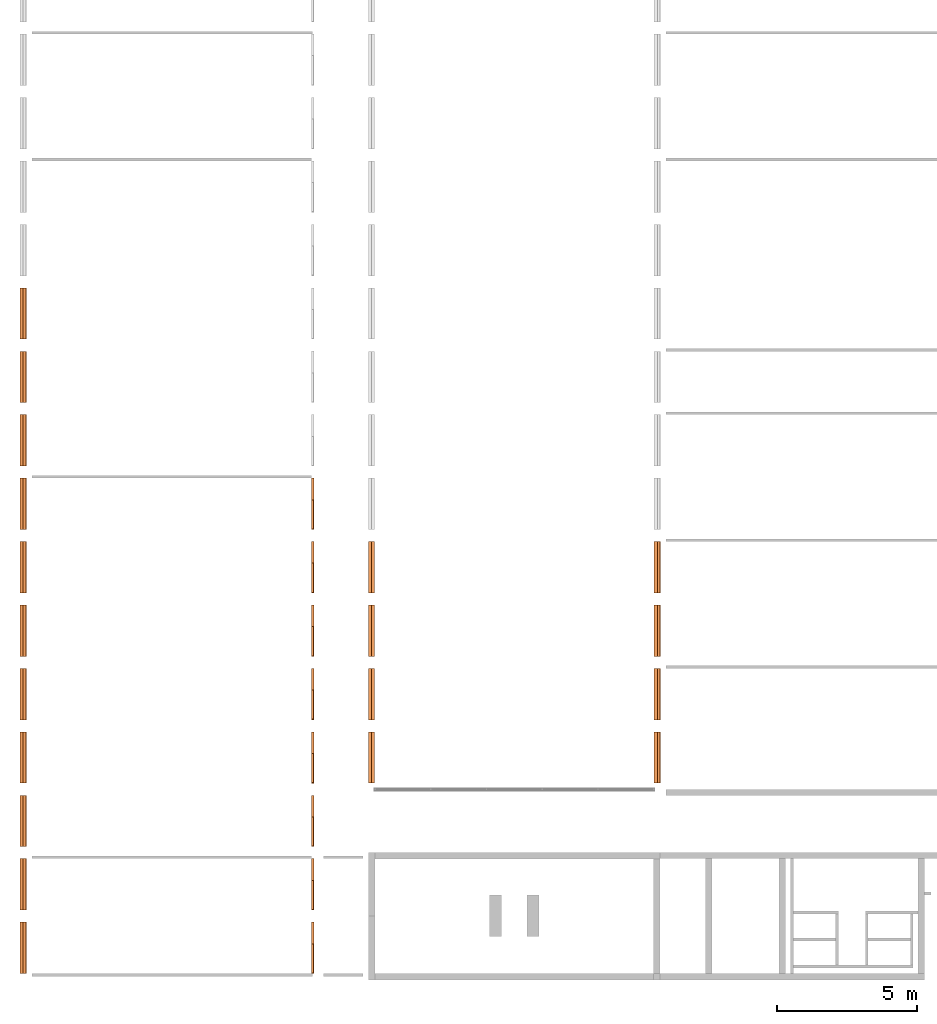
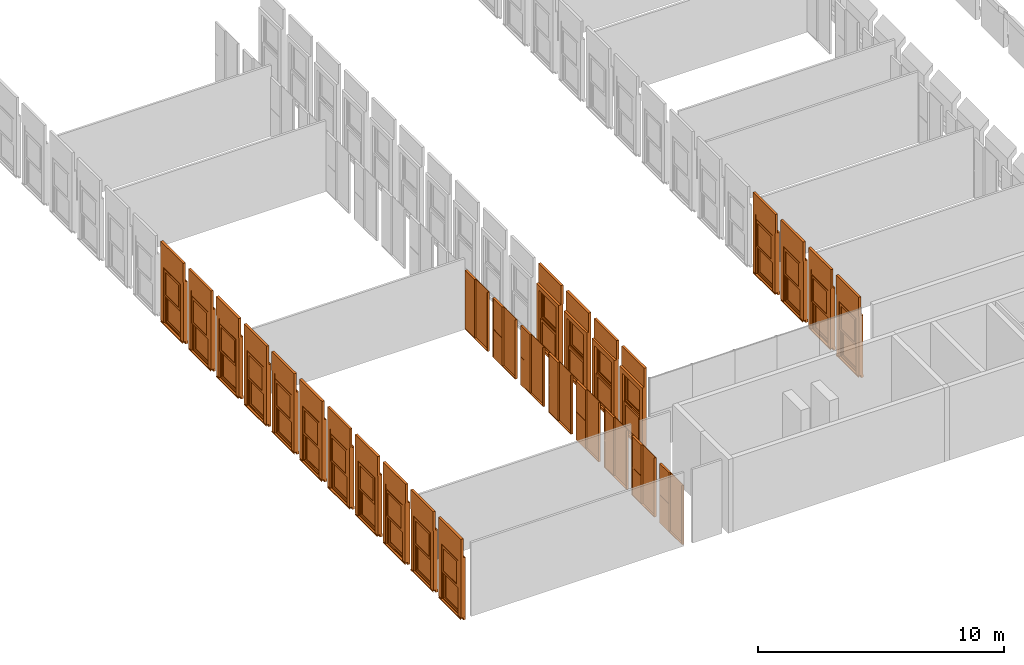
# One storey, part 6 of 13: 27 proxies.
"""IFC2X3 building model written with IfcOpenShell, lengths in millimetres."""

from ifc_helpers import new_model, entity, si_unit, converted_unit, derived_unit, direction, frame, frame_2d, origin, origin_2d_with_axis, place, context, subcontext, project, spatial, polyline, rectangle, outline, extrude, source, transform, mapped, material, material_list, type_object, type_shapes, element, save


model = new_model("IFC2X3")

# Units and contexts
model_context = context("Model", 3, precision=0.01, world=origin(), true_north=direction((6.12303176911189e-17, 1.0)))
body_context = subcontext(model_context, "Body", "Model", "MODEL_VIEW")
ifc_project = project(units=[si_unit("LENGTHUNIT", "METRE", prefix="MILLI"), si_unit("AREAUNIT", "SQUARE_METRE"), si_unit("VOLUMEUNIT", "CUBIC_METRE"), converted_unit("PLANEANGLEUNIT", "DEGREE", entity("IfcRatioMeasure", 0.0174532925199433), si_unit("PLANEANGLEUNIT", "RADIAN"), dimensions=[0, 0, 0, 0, 0, 0, 0]), si_unit("MASSUNIT", "GRAM", prefix="KILO"), derived_unit("MASSDENSITYUNIT", [(si_unit("MASSUNIT", "GRAM", prefix="KILO"), 1), (si_unit("LENGTHUNIT", "METRE"), -3)]), derived_unit("MOMENTOFINERTIAUNIT", [(si_unit("LENGTHUNIT", "METRE"), 4)]), si_unit("TIMEUNIT", "SECOND"), si_unit("FREQUENCYUNIT", "HERTZ"), si_unit("THERMODYNAMICTEMPERATUREUNIT", "DEGREE_CELSIUS"), derived_unit("THERMALTRANSMITTANCEUNIT", [(si_unit("MASSUNIT", "GRAM", prefix="KILO"), 1), (si_unit("THERMODYNAMICTEMPERATUREUNIT", "KELVIN"), -1), (si_unit("TIMEUNIT", "SECOND"), -3)]), derived_unit("VOLUMETRICFLOWRATEUNIT", [(si_unit("LENGTHUNIT", "METRE"), 3), (si_unit("TIMEUNIT", "SECOND"), -1)]), si_unit("ELECTRICCURRENTUNIT", "AMPERE"), si_unit("ELECTRICVOLTAGEUNIT", "VOLT"), si_unit("POWERUNIT", "WATT"), si_unit("FORCEUNIT", "NEWTON", prefix="KILO"), si_unit("ILLUMINANCEUNIT", "LUX"), si_unit("LUMINOUSFLUXUNIT", "LUMEN"), si_unit("LUMINOUSINTENSITYUNIT", "CANDELA"), derived_unit("USERDEFINED", [(si_unit("MASSUNIT", "GRAM", prefix="KILO"), -1), (si_unit("LENGTHUNIT", "METRE"), -2), (si_unit("TIMEUNIT", "SECOND"), 3), (si_unit("LUMINOUSFLUXUNIT", "LUMEN"), 1)]), derived_unit("LINEARVELOCITYUNIT", [(si_unit("LENGTHUNIT", "METRE"), 1), (si_unit("TIMEUNIT", "SECOND"), -1)]), si_unit("PRESSUREUNIT", "PASCAL"), derived_unit("USERDEFINED", [(si_unit("LENGTHUNIT", "METRE"), -2), (si_unit("MASSUNIT", "GRAM", prefix="KILO"), 1), (si_unit("TIMEUNIT", "SECOND"), -2)]), derived_unit("LINEARFORCEUNIT", [(si_unit("MASSUNIT", "GRAM", prefix="KILO"), 1), (si_unit("LENGTHUNIT", "METRE"), 1), (si_unit("TIMEUNIT", "SECOND"), -2), (si_unit("LENGTHUNIT", "METRE"), -1)]), derived_unit("PLANARFORCEUNIT", [(si_unit("MASSUNIT", "GRAM", prefix="KILO"), 1), (si_unit("LENGTHUNIT", "METRE"), 1), (si_unit("TIMEUNIT", "SECOND"), -2), (si_unit("LENGTHUNIT", "METRE"), -2)])], contexts=[model_context])

# Site, building, storey
site_placement = place(None, frame((10627.5135316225, 21939.0796949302, 0.0)))
site = spatial("IfcSite", under=ifc_project, at=site_placement, Name="Default", CompositionType="ELEMENT")
building_placement = place(site_placement, origin())
building = spatial("IfcBuilding", under=site, at=building_placement, CompositionType="ELEMENT")
storey_placement = place(building_placement, frame((0.0, 0.0, 7320.0)))
storey = spatial("IfcBuildingStorey", under=building, at=storey_placement, Name="R+2", CompositionType="ELEMENT", Elevation=7320.0)

# Proxies
ifc_material_1 = material(Name="PVC, Flexible")
ifc_material_2 = material(Name="Glass")
ifc_material_list_1 = material_list([ifc_material_1, ifc_material_2])
building_element_proxy_type_1 = type_object("IfcBuildingElementProxyType", Name="FENETRE.dwg:Fenetre ext 296+95", PredefinedType="NOTDEFINED", material=ifc_material_1)
shared_shape_1 = source(origin(), body_context, "Body", "SweptSolid", [
    extrude(rectangle(XDim=1829.99999999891, YDim=112.500043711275, at=origin_2d_with_axis()), frame((-10.4189092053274, 56.2500218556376, 2960.0), z_axis=(0.0, 0.0, 1.0), x_axis=(-1.0, 0.0, 0.0)), (0.0, 0.0, 1.0), 949.999999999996),
    extrude(outline(polyline([(-68.5678005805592, -14.3879872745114), (-72.4883397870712, -33.9999574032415), (-67.5853472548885, -34.9800922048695), (-63.9024543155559, -16.5569155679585), (44.3087537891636, -16.5569155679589), (54.1101018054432, 32.4730097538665), (40.6268723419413, 35.1683804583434), (40.1368049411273, 32.7168841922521), (51.168538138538, 30.5115808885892), (42.1928709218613, -14.3879872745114), (-68.5678005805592, -14.3879872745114)])), frame((-925.418909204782, 66.917049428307, -47.5499763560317), z_axis=(-1.0, 0.0, 0.0), x_axis=(0.0, 0.980598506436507, -0.196026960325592)), (0.0, 0.0, -1.0), 1829.99999999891),
    extrude(outline(polyline([(-64.667066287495, -56.2500218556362), (66.1666874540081, -56.2500218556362), (66.1666874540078, 56.2500218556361), (-67.6663086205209, 56.2500218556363), (-64.667066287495, -56.2500218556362)])), frame((-925.418909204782, -56.2500218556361, -63.833312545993), z_axis=(1.0, 0.0, 0.0), x_axis=(0.0, 0.0, -1.0)), (0.0, 0.0, 1.0), 1829.99999999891),
    extrude(outline(polyline([(-55.5555555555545, 97.0007159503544), (-55.5555555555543, -5.85738417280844), (-55.5555555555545, -95.357341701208), (-45.5555555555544, -95.3573417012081), (-45.5555555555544, -105.357341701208), (174.444444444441, -105.357341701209), (174.444444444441, 106.642659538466), (-45.5555555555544, 106.642659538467), (-45.5555555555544, 97.0007159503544), (-55.5555555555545, 97.0007159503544)])), frame((849.025535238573, 5.85738417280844, 0.0), z_axis=(0.0, 0.0, -1.0), x_axis=(-1.0, 0.0, 0.0)), (0.0, 0.0, -1.0), 2960.0),
    extrude(rectangle(XDim=199.499957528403, YDim=1369.99999999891, at=origin_2d_with_axis()), frame((-10.4189092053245, 0.250021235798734, 2730.0), z_axis=(0.0, 0.0, 1.0), x_axis=(0.0, 1.0, 0.0)), (0.0, 0.0, 1.0), 230.000000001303),
    extrude(outline(polyline([(-97.0007159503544, -55.5555555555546), (5.85738417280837, -55.5555555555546), (95.357341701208, -55.5555555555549), (95.357341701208, -45.5555555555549), (105.357341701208, -45.5555555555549), (105.357341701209, 174.44444444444), (-106.642659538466, 174.444444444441), (-106.642659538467, -45.5555555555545), (-97.0007159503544, -45.5555555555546), (-97.0007159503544, -55.5555555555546)])), frame((-869.863353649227, 5.85738417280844, 0.0), z_axis=(0.0, 0.0, 1.0), x_axis=(0.0, -1.0, 0.0)), (0.0, 0.0, 1.0), 2960.0),
    extrude(rectangle(XDim=1.0, YDim=1079.99999999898, at=origin_2d_with_axis()), frame((-10.4189092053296, -19.5, 130.0), z_axis=(0.0, 0.0, 1.0), x_axis=(0.0, 1.0, 0.0)), (0.0, 0.0, 1.0), 1120.00000000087),
    extrude(rectangle(XDim=1.0, YDim=1079.99999999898, at=frame_2d((-4.21884749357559e-15, 0.0), x_axis=(1.0, 0.0))), frame((-10.4189092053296, -30.5, 130.0), z_axis=(0.0, 0.0, 1.0), x_axis=(0.0, 1.0, 0.0)), (0.0, 0.0, 1.0), 1120.00000000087),
    extrude(rectangle(XDim=1.0, YDim=1079.99999999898, at=frame_2d((-4.21884749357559e-15, 0.0), x_axis=(1.0, 0.0))), frame((-10.4189092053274, 69.5, 1465.0), z_axis=(0.0, 0.0, 1.0), x_axis=(0.0, 1.0, 0.0)), (0.0, 0.0, 1.0), 1120.0),
    extrude(rectangle(XDim=0.999999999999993, YDim=1079.99999999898, at=frame_2d((-8.46545056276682e-15, 0.0), x_axis=(1.0, 0.0))), frame((-10.4189092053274, 80.5, 1465.0), z_axis=(0.0, 0.0, 1.0), x_axis=(0.0, 1.0, 0.0)), (0.0, 0.0, 1.0), 1120.00000000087),
    extrude(outline(polyline([(-685.0, -1365.0), (0.0, -1365.0), (685.0, -1365.0), (685.0, 1365.0), (0.0, 1365.0), (-685.0, 1365.0), (-685.0, -1365.0)]), holes=[polyline([(-640.0, -1320.0), (-640.0, -45.0), (0.0, -45.0), (640.0, -45.0), (640.0, -1320.0), (0.0, -1320.0), (-640.0, -1320.0)]), polyline([(-640.0, 40.0), (-640.0, 1315.0), (0.0, 1315.0), (640.0, 1315.0), (640.0, 40.0), (0.0, 40.0), (-640.0, 40.0)])]), frame((-10.4189092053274, 0.0, 1365.0), z_axis=(0.0, 1.0, 0.0), x_axis=(1.0, 0.0, 0.0)), (0.0, 0.0, 1.0), 50.0),
    extrude(outline(polyline([(-655.0, -667.500000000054), (655.0, -667.500000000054), (655.0, 667.500000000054), (-655.0, 667.500000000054), (-655.0, -667.500000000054)]), holes=[polyline([(-540.0, 552.500000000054), (540.0, 552.500000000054), (540.0, -567.500000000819), (-540.0, -567.500000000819), (-540.0, 552.500000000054)])]), frame((-10.4189092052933, -50.0, 697.500000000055), z_axis=(0.0, 1.0, 0.0), x_axis=(-1.0, 0.0, 0.0)), (0.0, 0.0, 1.0), 50.0),
    extrude(outline(polyline([(-655.0, -667.500000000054), (655.0, -667.500000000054), (655.0, 667.500000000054), (-655.0, 667.500000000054), (-655.0, -667.500000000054)]), holes=[polyline([(-540.0, 552.500000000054), (540.0, 552.500000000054), (540.0, -567.500000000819), (-540.0, -567.500000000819), (-540.0, 552.500000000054)])]), frame((-10.4189092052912, 50.0, 2032.50000000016), z_axis=(0.0, 1.0, 0.0), x_axis=(-1.0, 0.0, 0.0)), (0.0, 0.0, 1.0), 50.0),
])
type_shapes(building_element_proxy_type_1, [shared_shape_1])
proxy_1_placement = place(storey_placement, frame((-10728.9017825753, 1801.33921427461, 0.0), z_axis=(0.0, 0.0, 1.0), x_axis=(0.0, 1.0, 0.0)))
element("IfcBuildingElementProxy", 1, at=proxy_1_placement, inside=storey, type_object=building_element_proxy_type_1, material=ifc_material_list_1, Name="FENETRE.dwg:Fenetre ext 296+95", ObjectType="FENETRE.dwg:Fenetre ext 296+95", context=body_context, shape_type="MappedRepresentation", body=[
    mapped(shared_shape_1, transform((0.0, 0.0, 0.0), scale=1.0)),
])
ifc_material_list_2 = material_list([ifc_material_1, ifc_material_2])
proxy_2_placement = place(storey_placement, frame((-10728.9017825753, -458.660785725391, 0.0), z_axis=(0.0, 0.0, 1.0), x_axis=(0.0, 1.0, 0.0)))
element("IfcBuildingElementProxy", 2, at=proxy_2_placement, inside=storey, type_object=building_element_proxy_type_1, material=ifc_material_list_2, Name="FENETRE.dwg:Fenetre ext 296+95", ObjectType="FENETRE.dwg:Fenetre ext 296+95", context=body_context, shape_type="MappedRepresentation", body=[
    mapped(shared_shape_1, transform((0.0, 0.0, 0.0), scale=1.0)),
])
ifc_material_list_3 = material_list([ifc_material_1, ifc_material_2])
proxy_3_placement = place(storey_placement, frame((-10728.9017825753, -2718.66078572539, 0.0), z_axis=(0.0, 0.0, 1.0), x_axis=(0.0, 1.0, 0.0)))
element("IfcBuildingElementProxy", 3, at=proxy_3_placement, inside=storey, type_object=building_element_proxy_type_1, material=ifc_material_list_3, Name="FENETRE.dwg:Fenetre ext 296+95", ObjectType="FENETRE.dwg:Fenetre ext 296+95", context=body_context, shape_type="MappedRepresentation", body=[
    mapped(shared_shape_1, transform((0.0, 0.0, 0.0), scale=1.0)),
])
ifc_material_list_4 = material_list([ifc_material_1, ifc_material_2])
proxy_4_placement = place(storey_placement, frame((-10728.9017825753, -4978.66078572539, 0.0), z_axis=(0.0, 0.0, 1.0), x_axis=(0.0, 1.0, 0.0)))
element("IfcBuildingElementProxy", 4, at=proxy_4_placement, inside=storey, type_object=building_element_proxy_type_1, material=ifc_material_list_4, Name="FENETRE.dwg:Fenetre ext 296+95", ObjectType="FENETRE.dwg:Fenetre ext 296+95", context=body_context, shape_type="MappedRepresentation", body=[
    mapped(shared_shape_1, transform((0.0, 0.0, 0.0), scale=1.0)),
])
ifc_material_list_5 = material_list([ifc_material_1, ifc_material_2])
proxy_5_placement = place(storey_placement, frame((-10728.9017825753, -7238.6607857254, 0.0), z_axis=(0.0, 0.0, 1.0), x_axis=(0.0, 1.0, 0.0)))
element("IfcBuildingElementProxy", 5, at=proxy_5_placement, inside=storey, type_object=building_element_proxy_type_1, material=ifc_material_list_5, Name="FENETRE.dwg:Fenetre ext 296+95", ObjectType="FENETRE.dwg:Fenetre ext 296+95", context=body_context, shape_type="MappedRepresentation", body=[
    mapped(shared_shape_1, transform((0.0, 0.0, 0.0), scale=1.0)),
])
ifc_material_list_6 = material_list([ifc_material_1, ifc_material_2])
proxy_6_placement = place(storey_placement, frame((-10728.9017825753, -9498.6607857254, 0.0), z_axis=(0.0, 0.0, 1.0), x_axis=(0.0, 1.0, 0.0)))
element("IfcBuildingElementProxy", 6, at=proxy_6_placement, inside=storey, type_object=building_element_proxy_type_1, material=ifc_material_list_6, Name="FENETRE.dwg:Fenetre ext 296+95", ObjectType="FENETRE.dwg:Fenetre ext 296+95", context=body_context, shape_type="MappedRepresentation", body=[
    mapped(shared_shape_1, transform((0.0, 0.0, 0.0), scale=1.0)),
])
ifc_material_list_7 = material_list([ifc_material_1, ifc_material_2])
proxy_7_placement = place(storey_placement, frame((-10728.9017825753, -11758.6607857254, 0.0), z_axis=(0.0, 0.0, 1.0), x_axis=(0.0, 1.0, 0.0)))
element("IfcBuildingElementProxy", 7, at=proxy_7_placement, inside=storey, type_object=building_element_proxy_type_1, material=ifc_material_list_7, Name="FENETRE.dwg:Fenetre ext 296+95", ObjectType="FENETRE.dwg:Fenetre ext 296+95", context=body_context, shape_type="MappedRepresentation", body=[
    mapped(shared_shape_1, transform((0.0, 0.0, 0.0), scale=1.0)),
])
ifc_material_list_8 = material_list([ifc_material_1, ifc_material_2])
proxy_8_placement = place(storey_placement, frame((-10728.9017825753, -14018.6607857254, 0.0), z_axis=(0.0, 0.0, 1.0), x_axis=(0.0, 1.0, 0.0)))
element("IfcBuildingElementProxy", 8, at=proxy_8_placement, inside=storey, type_object=building_element_proxy_type_1, material=ifc_material_list_8, Name="FENETRE.dwg:Fenetre ext 296+95", ObjectType="FENETRE.dwg:Fenetre ext 296+95", context=body_context, shape_type="MappedRepresentation", body=[
    mapped(shared_shape_1, transform((0.0, 0.0, 0.0), scale=1.0)),
])
ifc_material_list_9 = material_list([ifc_material_1, ifc_material_2])
proxy_9_placement = place(storey_placement, frame((-10728.9017825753, -16278.6607857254, 0.0), z_axis=(0.0, 0.0, 1.0), x_axis=(0.0, 1.0, 0.0)))
element("IfcBuildingElementProxy", 9, at=proxy_9_placement, inside=storey, type_object=building_element_proxy_type_1, material=ifc_material_list_9, Name="FENETRE.dwg:Fenetre ext 296+95", ObjectType="FENETRE.dwg:Fenetre ext 296+95", context=body_context, shape_type="MappedRepresentation", body=[
    mapped(shared_shape_1, transform((0.0, 0.0, 0.0), scale=1.0)),
])
ifc_material_list_10 = material_list([ifc_material_1, ifc_material_2])
proxy_10_placement = place(storey_placement, frame((-10728.9017825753, -18538.6607857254, 0.0), z_axis=(0.0, 0.0, 1.0), x_axis=(0.0, 1.0, 0.0)))
element("IfcBuildingElementProxy", 10, at=proxy_10_placement, inside=storey, type_object=building_element_proxy_type_1, material=ifc_material_list_10, Name="FENETRE.dwg:Fenetre ext 296+95", ObjectType="FENETRE.dwg:Fenetre ext 296+95", context=body_context, shape_type="MappedRepresentation", body=[
    mapped(shared_shape_1, transform((0.0, 0.0, 0.0), scale=1.0)),
])
ifc_material_list_11 = material_list([ifc_material_1, ifc_material_2])
proxy_11_placement = place(storey_placement, frame((-10728.9017825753, -20798.6607857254, 0.0), z_axis=(0.0, 0.0, 1.0), x_axis=(0.0, 1.0, 0.0)))
element("IfcBuildingElementProxy", 11, at=proxy_11_placement, inside=storey, type_object=building_element_proxy_type_1, material=ifc_material_list_11, Name="FENETRE.dwg:Fenetre ext 296+95", ObjectType="FENETRE.dwg:Fenetre ext 296+95", context=body_context, shape_type="MappedRepresentation", body=[
    mapped(shared_shape_1, transform((0.0, 0.0, 0.0), scale=1.0)),
])
ifc_material_list_12 = material_list([ifc_material_1, ifc_material_2])
proxy_12_placement = place(storey_placement, frame((11863.0982174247, -7238.66078572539, 0.0), z_axis=(0.0, 0.0, 1.0), x_axis=(0.0, 1.0, 0.0)))
element("IfcBuildingElementProxy", 12, at=proxy_12_placement, inside=storey, type_object=building_element_proxy_type_1, material=ifc_material_list_12, Name="FENETRE.dwg:Fenetre ext 296+95", ObjectType="FENETRE.dwg:Fenetre ext 296+95", context=body_context, shape_type="MappedRepresentation", body=[
    mapped(shared_shape_1, transform((0.0, 0.0, 0.0), scale=1.0)),
])
ifc_material_list_13 = material_list([ifc_material_1, ifc_material_2])
proxy_13_placement = place(storey_placement, frame((11863.0982174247, -9498.66078572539, 0.0), z_axis=(0.0, 0.0, 1.0), x_axis=(0.0, 1.0, 0.0)))
element("IfcBuildingElementProxy", 13, at=proxy_13_placement, inside=storey, type_object=building_element_proxy_type_1, material=ifc_material_list_13, Name="FENETRE.dwg:Fenetre ext 296+95", ObjectType="FENETRE.dwg:Fenetre ext 296+95", context=body_context, shape_type="MappedRepresentation", body=[
    mapped(shared_shape_1, transform((0.0, 0.0, 0.0), scale=1.0)),
])
ifc_material_list_14 = material_list([ifc_material_1, ifc_material_2])
proxy_14_placement = place(storey_placement, frame((11863.0982174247, -11758.6607857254, 0.0), z_axis=(0.0, 0.0, 1.0), x_axis=(0.0, 1.0, 0.0)))
element("IfcBuildingElementProxy", 14, at=proxy_14_placement, inside=storey, type_object=building_element_proxy_type_1, material=ifc_material_list_14, Name="FENETRE.dwg:Fenetre ext 296+95", ObjectType="FENETRE.dwg:Fenetre ext 296+95", context=body_context, shape_type="MappedRepresentation", body=[
    mapped(shared_shape_1, transform((0.0, 0.0, 0.0), scale=1.0)),
])
ifc_material_list_15 = material_list([ifc_material_1, ifc_material_2])
proxy_15_placement = place(storey_placement, frame((11863.0982174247, -14018.6607857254, 0.0), z_axis=(0.0, 0.0, 1.0), x_axis=(0.0, 1.0, 0.0)))
element("IfcBuildingElementProxy", 15, at=proxy_15_placement, inside=storey, type_object=building_element_proxy_type_1, material=ifc_material_list_15, Name="FENETRE.dwg:Fenetre ext 296+95", ObjectType="FENETRE.dwg:Fenetre ext 296+95", context=body_context, shape_type="MappedRepresentation", body=[
    mapped(shared_shape_1, transform((0.0, 0.0, 0.0), scale=1.0)),
])
ifc_material_list_16 = material_list([ifc_material_1, ifc_material_2])
building_element_proxy_type_2 = type_object("IfcBuildingElementProxyType", Name="FENETRE.dwg:Fenetre ext 296+95", PredefinedType="NOTDEFINED", material=ifc_material_1)
shared_shape_2 = source(origin(), body_context, "Body", "SweptSolid", [
    extrude(rectangle(XDim=112.500043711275, YDim=1829.99999999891, at=origin_2d_with_axis()), frame((-10.4189092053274, -56.2500218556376, 2960.0), z_axis=(0.0, 0.0, 1.0), x_axis=(0.0, 1.0, 0.0)), (0.0, 0.0, 1.0), 949.999999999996),
    extrude(outline(polyline([(27.5499763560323, -64.4170494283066), (47.5499763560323, -64.4170494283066), (47.5499763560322, -59.4170494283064), (28.7622905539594, -59.4170494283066), (7.54997635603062, 46.6946996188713), (-42.4500236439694, 46.6946996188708), (-42.4500236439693, 32.9446996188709), (-39.9500236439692, 32.9446996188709), (-39.9500236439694, 44.1946996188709), (5.83789859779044, 44.1946996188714), (27.5499763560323, -64.4170494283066)])), frame((-925.418909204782, -66.917049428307, -47.5499763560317), z_axis=(1.0, 0.0, 0.0), x_axis=(0.0, 0.0, 1.0)), (0.0, 0.0, 1.0), 1829.99999999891),
    extrude(outline(polyline([(-54.506636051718, -66.1431859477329), (58.0333803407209, -66.1431859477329), (54.4666704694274, 67.6422744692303), (-57.9934147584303, 64.6440974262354), (-54.506636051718, -66.1431859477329)])), frame((-925.418909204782, 56.2500218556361, -63.833312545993), z_axis=(1.0, 0.0, 0.0), x_axis=(0.0, -0.999644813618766, 0.0266504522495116)), (0.0, 0.0, 1.0), 1829.99999999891),
    extrude(outline(polyline([(-97.0007159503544, -55.5555555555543), (5.85738417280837, -55.5555555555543), (95.357341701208, -55.5555555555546), (95.357341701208, -45.5555555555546), (105.357341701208, -45.5555555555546), (105.357341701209, 174.444444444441), (-106.642659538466, 174.444444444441), (-106.642659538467, -45.5555555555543), (-97.0007159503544, -45.5555555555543), (-97.0007159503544, -55.5555555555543)])), frame((849.025535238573, -5.85738417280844, 0.0), z_axis=(0.0, 0.0, 1.0), x_axis=(0.0, 1.0, 0.0)), (0.0, 0.0, 1.0), 2960.0),
    extrude(rectangle(XDim=1369.99999999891, YDim=199.499957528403, at=origin_2d_with_axis()), frame((-10.4189092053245, -0.250021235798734, 2730.0), z_axis=(0.0, 0.0, 1.0), x_axis=(-1.0, 0.0, 0.0)), (0.0, 0.0, 1.0), 230.000000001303),
    extrude(outline(polyline([(-55.5555555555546, 97.0007159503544), (-55.5555555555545, -5.85738417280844), (-55.5555555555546, -95.357341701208), (-45.5555555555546, -95.3573417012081), (-45.5555555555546, -105.357341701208), (174.444444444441, -105.357341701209), (174.444444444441, 106.642659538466), (-45.5555555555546, 106.642659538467), (-45.5555555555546, 97.0007159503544), (-55.5555555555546, 97.0007159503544)])), frame((-869.863353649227, -5.85738417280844, 0.0), z_axis=(0.0, 0.0, -1.0), x_axis=(1.0, 0.0, 0.0)), (0.0, 0.0, -1.0), 2960.0),
    extrude(rectangle(XDim=1079.99999999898, YDim=1.0, at=origin_2d_with_axis()), frame((-10.4189092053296, 19.5, 130.0), z_axis=(0.0, 0.0, 1.0), x_axis=(-1.0, 0.0, 0.0)), (0.0, 0.0, 1.0), 1120.00000000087),
    extrude(rectangle(XDim=1079.99999999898, YDim=1.0, at=origin_2d_with_axis()), frame((-10.4189092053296, 30.5, 130.0), z_axis=(0.0, 0.0, 1.0), x_axis=(-1.0, 0.0, 0.0)), (0.0, 0.0, 1.0), 1120.00000000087),
    extrude(rectangle(XDim=1079.99999999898, YDim=1.0, at=frame_2d((0.0, 4.21884749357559e-15), x_axis=(1.0, 0.0))), frame((-10.4189092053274, -69.5, 1465.0), z_axis=(0.0, 0.0, 1.0), x_axis=(-1.0, 0.0, 0.0)), (0.0, 0.0, 1.0), 1120.0),
    extrude(rectangle(XDim=1079.99999999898, YDim=0.999999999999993, at=frame_2d((0.0, -8.46545056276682e-15), x_axis=(1.0, 0.0))), frame((-10.4189092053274, -80.5, 1465.0), z_axis=(0.0, 0.0, 1.0), x_axis=(-1.0, 0.0, 0.0)), (0.0, 0.0, 1.0), 1120.00000000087),
    extrude(outline(polyline([(-685.0, -1365.0), (0.0, -1365.0), (685.0, -1365.0), (685.0, 1365.0), (0.0, 1365.0), (-685.0, 1365.0), (-685.0, -1365.0)]), holes=[polyline([(-640.0, -1320.0), (-640.0, -45.0), (0.0, -45.0), (640.0, -45.0), (640.0, -1320.0), (0.0, -1320.0), (-640.0, -1320.0)]), polyline([(-640.0, 40.0), (-640.0, 1315.0), (0.0, 1315.0), (640.0, 1315.0), (640.0, 40.0), (0.0, 40.0), (-640.0, 40.0)])]), frame((-10.4189092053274, -50.0, 1365.0), z_axis=(0.0, 1.0, 0.0), x_axis=(1.0, 0.0, 0.0)), (0.0, 0.0, 1.0), 50.0),
    extrude(outline(polyline([(-655.0, -667.500000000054), (655.0, -667.500000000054), (655.0, 667.500000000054), (-655.0, 667.500000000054), (-655.0, -667.500000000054)]), holes=[polyline([(-540.0, 552.500000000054), (540.0, 552.500000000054), (540.0, -567.500000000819), (-540.0, -567.500000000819), (-540.0, 552.500000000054)])]), frame((-10.4189092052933, 0.0, 697.500000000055), z_axis=(0.0, 1.0, 0.0), x_axis=(-1.0, 0.0, 0.0)), (0.0, 0.0, 1.0), 50.0),
    extrude(outline(polyline([(-655.0, -667.500000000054), (655.0, -667.500000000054), (655.0, 667.500000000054), (-655.0, 667.500000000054), (-655.0, -667.500000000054)]), holes=[polyline([(-540.0, 552.500000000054), (540.0, 552.500000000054), (540.0, -567.500000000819), (-540.0, -567.500000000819), (-540.0, 552.500000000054)])]), frame((-10.4189092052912, -100.0, 2032.50000000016), z_axis=(0.0, 1.0, 0.0), x_axis=(-1.0, 0.0, 0.0)), (0.0, 0.0, 1.0), 50.0),
])
type_shapes(building_element_proxy_type_2, [shared_shape_2])
proxy_16_placement = place(storey_placement, frame((1681.87471933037, -7238.66078572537, 0.0), z_axis=(0.0, 0.0, 1.0), x_axis=(0.0, 1.0, 0.0)))
element("IfcBuildingElementProxy", 16, at=proxy_16_placement, inside=storey, type_object=building_element_proxy_type_2, material=ifc_material_list_16, Name="FENETRE.dwg:Fenetre ext 296+95", ObjectType="FENETRE.dwg:Fenetre ext 296+95", context=body_context, shape_type="MappedRepresentation", body=[
    mapped(shared_shape_2, transform((0.0, 0.0, 0.0), scale=1.0)),
])
ifc_material_list_17 = material_list([ifc_material_1, ifc_material_2])
proxy_17_placement = place(storey_placement, frame((1681.87471933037, -9498.66078572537, 0.0), z_axis=(0.0, 0.0, 1.0), x_axis=(0.0, 1.0, 0.0)))
element("IfcBuildingElementProxy", 17, at=proxy_17_placement, inside=storey, type_object=building_element_proxy_type_2, material=ifc_material_list_17, Name="FENETRE.dwg:Fenetre ext 296+95", ObjectType="FENETRE.dwg:Fenetre ext 296+95", context=body_context, shape_type="MappedRepresentation", body=[
    mapped(shared_shape_2, transform((0.0, 0.0, 0.0), scale=1.0)),
])
ifc_material_list_18 = material_list([ifc_material_1, ifc_material_2])
proxy_18_placement = place(storey_placement, frame((1681.87471933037, -11758.6607857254, 0.0), z_axis=(0.0, 0.0, 1.0), x_axis=(0.0, 1.0, 0.0)))
element("IfcBuildingElementProxy", 18, at=proxy_18_placement, inside=storey, type_object=building_element_proxy_type_2, material=ifc_material_list_18, Name="FENETRE.dwg:Fenetre ext 296+95", ObjectType="FENETRE.dwg:Fenetre ext 296+95", context=body_context, shape_type="MappedRepresentation", body=[
    mapped(shared_shape_2, transform((0.0, 0.0, 0.0), scale=1.0)),
])
ifc_material_list_19 = material_list([ifc_material_1, ifc_material_2])
proxy_19_placement = place(storey_placement, frame((1681.87471933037, -14018.6607857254, 0.0), z_axis=(0.0, 0.0, 1.0), x_axis=(0.0, 1.0, 0.0)))
element("IfcBuildingElementProxy", 19, at=proxy_19_placement, inside=storey, type_object=building_element_proxy_type_2, material=ifc_material_list_19, Name="FENETRE.dwg:Fenetre ext 296+95", ObjectType="FENETRE.dwg:Fenetre ext 296+95", context=body_context, shape_type="MappedRepresentation", body=[
    mapped(shared_shape_2, transform((0.0, 0.0, 0.0), scale=1.0)),
])
ifc_material_3 = material(Name="Plywood, Sheathing")
ifc_material_list_20 = material_list([ifc_material_3, ifc_material_2])
building_element_proxy_type_3 = type_object("IfcBuildingElementProxyType", Name="Porte noire:Porte noire", PredefinedType="NOTDEFINED", material=ifc_material_3)
shared_shape_3 = source(origin(), body_context, "Body", "SweptSolid", [
    extrude(rectangle(XDim=100.0, YDim=23.0000000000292, at=origin_2d_with_axis()), frame((-950.918997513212, -50.0, 8.73189890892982), z_axis=(0.0, 0.0, 1.0), x_axis=(0.0, 1.0, 0.0)), (0.0, 0.0, 1.0), 2933.34951039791),
    extrude(rectangle(XDim=19.0, YDim=1038.0, at=frame_2d((7.99360577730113e-15, 0.0), x_axis=(1.0, 0.0))), frame((-420.418997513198, -87.5, 43.7318989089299), z_axis=(0.0, 0.0, 1.0), x_axis=(0.0, 1.0, 0.0)), (0.0, 0.0, 1.0), 2898.5),
    extrude(rectangle(XDim=100.0, YDim=1775.0, at=origin_2d_with_axis()), frame((-51.9189975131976, -50.0, 8.73189890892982), z_axis=(0.0, 0.0, 1.0), x_axis=(0.0, 1.0, 0.0)), (0.0, 0.0, 1.0), 35.0000000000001),
    extrude(rectangle(XDim=100.0, YDim=35.0000000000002, at=origin_2d_with_axis()), frame((853.081002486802, -50.0, 8.73189890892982), z_axis=(0.0, 0.0, 1.0), x_axis=(0.0, 1.0, 0.0)), (0.0, 0.0, 1.0), 2898.5),
    extrude(rectangle(XDim=100.0, YDim=740.0, at=origin_2d_with_axis()), frame((500.581002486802, -50.0, 2907.23189890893), z_axis=(0.0, 0.0, 1.0), x_axis=(0.0, 1.0, 0.0)), (0.0, 0.0, 1.0), 35.0000000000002),
    extrude(rectangle(XDim=100.0, YDim=31.9999999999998, at=origin_2d_with_axis()), frame((114.581002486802, -50.0, 43.7318989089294), z_axis=(0.0, 0.0, 1.0), x_axis=(0.0, 1.0, 0.0)), (0.0, 0.0, 1.0), 2898.5),
    extrude(rectangle(XDim=100.0, YDim=705.0, at=origin_2d_with_axis()), frame((483.081002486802, -50.0, 1343.73189890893), z_axis=(0.0, 0.0, 1.0), x_axis=(0.0, 1.0, 0.0)), (0.0, 0.0, 1.0), 55.0),
    extrude(outline(polyline([(-352.5, -650.0), (352.5, -650.0), (352.5, 650.0), (-352.5, 650.0), (-352.5, -650.0)]), holes=[polyline([(342.5, 640.0), (342.5, -640.0), (-342.5, -640.0), (-342.5, 640.0), (342.5, 640.0)])]), frame((483.081002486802, -80.0, 693.73189890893), z_axis=(0.0, 1.0, 0.0), x_axis=(1.0, 0.0, 0.0)), (0.0, 0.0, 1.0), 70.0),
    extrude(outline(polyline([(-754.25, -352.5), (754.25, -352.5), (754.25, 352.5), (-754.25, 352.5), (-754.25, -352.5)]), holes=[polyline([(744.25, 342.5), (744.25, -342.5), (-744.25, -342.5), (-744.25, 342.5), (744.25, 342.5)])]), frame((483.081002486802, -80.0, 2152.98189890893), z_axis=(0.0, 1.0, 0.0), x_axis=(0.0, 0.0, 1.0)), (0.0, 0.0, 1.0), 70.0),
    extrude(outline(polyline([(-640.0, -342.5), (640.0, -342.5), (640.0, 342.5), (-640.0, 342.5), (-640.0, -342.5)]), holes=[polyline([(630.0, 332.5), (630.0, -332.5), (-630.0, -332.5), (-630.0, 332.5), (630.0, 332.5)])]), frame((483.081002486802, -81.0, 693.731898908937), z_axis=(0.0, 1.0, 0.0), x_axis=(0.0, 0.0, 1.0)), (0.0, 0.0, 1.0), 3.99999999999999),
    extrude(outline(polyline([(-744.25, -342.5), (744.25, -342.5), (744.25, 342.5), (-744.25, 342.5), (-744.25, -342.5)]), holes=[polyline([(734.25, 332.5), (734.25, -332.5), (-734.25, -332.5), (-734.25, 332.5), (734.25, 332.5)])]), frame((483.081002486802, -81.0, 2152.98189890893), z_axis=(0.0, 1.0, 0.0), x_axis=(0.0, 0.0, 1.0)), (0.0, 0.0, 1.0), 3.99999999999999),
    extrude(outline(polyline([(-640.0, -342.5), (640.0, -342.5), (640.0, 342.5), (-640.0, 342.5), (-640.0, -342.5)]), holes=[polyline([(630.0, 332.5), (630.0, -332.5), (-630.0, -332.5), (-630.0, 332.5), (630.0, 332.5)])]), frame((483.081002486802, -15.0, 693.782575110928), z_axis=(0.0, 1.0, 0.0), x_axis=(0.0, 0.0, 1.0)), (0.0, 0.0, 1.0), 5.0),
    extrude(outline(polyline([(-744.25, -342.5), (744.25, -342.5), (744.25, 342.5), (-744.25, 342.5), (-744.25, -342.5)]), holes=[polyline([(734.25, 332.5), (734.25, -332.5), (-734.25, -332.5), (-734.25, 332.5), (734.25, 332.5)])]), frame((483.081002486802, -15.0, 2153.03257511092), z_axis=(0.0, 1.0, 0.0), x_axis=(0.0, 0.0, 1.0)), (0.0, 0.0, 1.0), 5.0),
    extrude(rectangle(XDim=2.0, YDim=665.0, at=frame_2d((8.43769498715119e-15, 0.0), x_axis=(1.0, 0.0))), frame((483.081002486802, -79.0, 1418.73189890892), z_axis=(0.0, 0.0, 1.0), x_axis=(0.0, 1.0, 0.0)), (0.0, 0.0, 1.0), 1468.50000000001),
    extrude(rectangle(XDim=2.0, YDim=665.0, at=frame_2d((8.43769498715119e-15, 0.0), x_axis=(1.0, 0.0))), frame((483.081002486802, -79.0, 63.7318989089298), z_axis=(0.0, 0.0, 1.0), x_axis=(0.0, 1.0, 0.0)), (0.0, 0.0, 1.0), 1260.0),
    extrude(rectangle(XDim=2.0, YDim=665.0, at=frame_2d((1.0547118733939e-15, 0.0), x_axis=(1.0, 0.0))), frame((483.081002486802, -13.0, 1418.78257511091), z_axis=(0.0, 0.0, 1.0), x_axis=(0.0, 1.0, 0.0)), (0.0, 0.0, 1.0), 1468.50000000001),
    extrude(rectangle(XDim=2.0, YDim=665.0, at=frame_2d((1.0547118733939e-15, 0.0), x_axis=(1.0, 0.0))), frame((483.081002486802, -13.0, 63.7825751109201), z_axis=(0.0, 0.0, 1.0), x_axis=(0.0, 1.0, 0.0)), (0.0, 0.0, 1.0), 1260.0),
])
type_shapes(building_element_proxy_type_3, [shared_shape_3])
proxy_20_placement = place(storey_placement, frame((-462.153535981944, -20762.660697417, 0.0), z_axis=(0.0, 0.0, 1.0), x_axis=(0.0, 1.0, 0.0)))
element("IfcBuildingElementProxy", 20, at=proxy_20_placement, inside=storey, type_object=building_element_proxy_type_3, material=ifc_material_list_20, Name="Porte noire:Porte noire", ObjectType="Porte noire:Porte noire", context=body_context, shape_type="MappedRepresentation", body=[
    mapped(shared_shape_3, transform((0.0, 0.0, 0.0), scale=1.0)),
])
ifc_material_list_21 = material_list([ifc_material_3, ifc_material_2])
proxy_21_placement = place(storey_placement, frame((-462.153535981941, -18502.660697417, 0.0), z_axis=(0.0, 0.0, 1.0), x_axis=(0.0, 1.0, 0.0)))
element("IfcBuildingElementProxy", 21, at=proxy_21_placement, inside=storey, type_object=building_element_proxy_type_3, material=ifc_material_list_21, Name="Porte noire:Porte noire", ObjectType="Porte noire:Porte noire", context=body_context, shape_type="MappedRepresentation", body=[
    mapped(shared_shape_3, transform((0.0, 0.0, 0.0), scale=1.0)),
])
ifc_material_list_22 = material_list([ifc_material_3, ifc_material_2])
proxy_22_placement = place(storey_placement, frame((-462.153535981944, -16242.660697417, 0.0), z_axis=(0.0, 0.0, 1.0), x_axis=(0.0, 1.0, 0.0)))
element("IfcBuildingElementProxy", 22, at=proxy_22_placement, inside=storey, type_object=building_element_proxy_type_3, material=ifc_material_list_22, Name="Porte noire:Porte noire", ObjectType="Porte noire:Porte noire", context=body_context, shape_type="MappedRepresentation", body=[
    mapped(shared_shape_3, transform((0.0, 0.0, 0.0), scale=1.0)),
])
ifc_material_list_23 = material_list([ifc_material_3, ifc_material_2])
proxy_23_placement = place(storey_placement, frame((-462.153535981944, -13982.660697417, 0.0), z_axis=(0.0, 0.0, 1.0), x_axis=(0.0, 1.0, 0.0)))
element("IfcBuildingElementProxy", 23, at=proxy_23_placement, inside=storey, type_object=building_element_proxy_type_3, material=ifc_material_list_23, Name="Porte noire:Porte noire", ObjectType="Porte noire:Porte noire", context=body_context, shape_type="MappedRepresentation", body=[
    mapped(shared_shape_3, transform((0.0, 0.0, 0.0), scale=1.0)),
])
ifc_material_list_24 = material_list([ifc_material_3, ifc_material_2])
proxy_24_placement = place(storey_placement, frame((-462.153535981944, -11722.660697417, 0.0), z_axis=(0.0, 0.0, 1.0), x_axis=(0.0, 1.0, 0.0)))
element("IfcBuildingElementProxy", 24, at=proxy_24_placement, inside=storey, type_object=building_element_proxy_type_3, material=ifc_material_list_24, Name="Porte noire:Porte noire", ObjectType="Porte noire:Porte noire", context=body_context, shape_type="MappedRepresentation", body=[
    mapped(shared_shape_3, transform((0.0, 0.0, 0.0), scale=1.0)),
])
ifc_material_list_25 = material_list([ifc_material_3, ifc_material_2])
proxy_25_placement = place(storey_placement, frame((-462.153535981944, -9462.660697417, 0.0), z_axis=(0.0, 0.0, 1.0), x_axis=(0.0, 1.0, 0.0)))
element("IfcBuildingElementProxy", 25, at=proxy_25_placement, inside=storey, type_object=building_element_proxy_type_3, material=ifc_material_list_25, Name="Porte noire:Porte noire", ObjectType="Porte noire:Porte noire", context=body_context, shape_type="MappedRepresentation", body=[
    mapped(shared_shape_3, transform((0.0, 0.0, 0.0), scale=1.0)),
])
ifc_material_list_26 = material_list([ifc_material_3, ifc_material_2])
proxy_26_placement = place(storey_placement, frame((-462.153535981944, -7202.660697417, 0.0), z_axis=(0.0, 0.0, 1.0), x_axis=(0.0, 1.0, 0.0)))
element("IfcBuildingElementProxy", 26, at=proxy_26_placement, inside=storey, type_object=building_element_proxy_type_3, material=ifc_material_list_26, Name="Porte noire:Porte noire", ObjectType="Porte noire:Porte noire", context=body_context, shape_type="MappedRepresentation", body=[
    mapped(shared_shape_3, transform((0.0, 0.0, 0.0), scale=1.0)),
])
ifc_material_list_27 = material_list([ifc_material_3, ifc_material_2])
proxy_27_placement = place(storey_placement, frame((-462.153535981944, -4942.660697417, 0.0), z_axis=(0.0, 0.0, 1.0), x_axis=(0.0, 1.0, 0.0)))
element("IfcBuildingElementProxy", 27, at=proxy_27_placement, inside=storey, type_object=building_element_proxy_type_3, material=ifc_material_list_27, Name="Porte noire:Porte noire", ObjectType="Porte noire:Porte noire", context=body_context, shape_type="MappedRepresentation", body=[
    mapped(shared_shape_3, transform((0.0, 0.0, 0.0), scale=1.0)),
])

save(model, "model.ifc")
